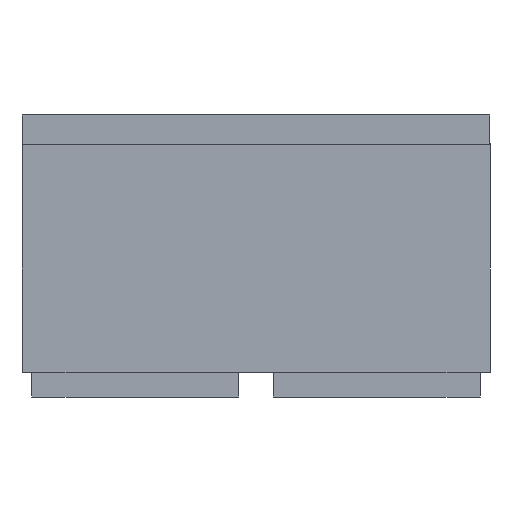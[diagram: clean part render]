
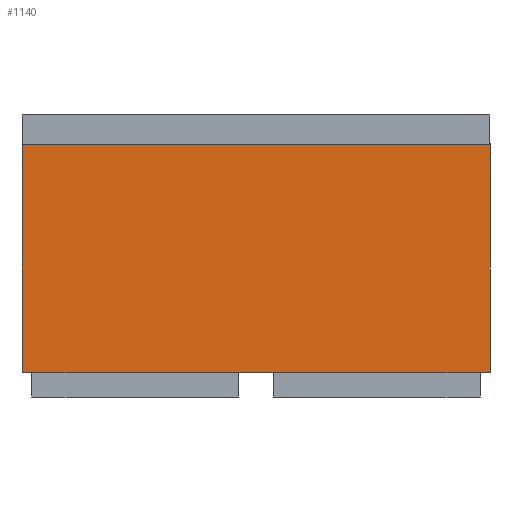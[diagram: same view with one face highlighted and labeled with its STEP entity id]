
A CAD part, left-side view. The second image highlights one B-rep face of the part: STEP entity #1140.
In plain terms, the highlighted planar face has unit normal (-1, 0, 0).
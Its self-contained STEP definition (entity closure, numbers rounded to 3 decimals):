
#759=CARTESIAN_POINT('',(-259.272,-116.657,10.0));
#760=VERTEX_POINT('',#759);
#767=CARTESIAN_POINT('',(-259.272,-112.657,10.0));
#768=VERTEX_POINT('',#767);
#769=CARTESIAN_POINT('',(-259.272,-116.657,10.0));
#770=DIRECTION('',(0.0,1.0,0.0));
#771=VECTOR('',#770,4.);
#772=LINE('',#769,#771);
#773=EDGE_CURVE('',#760,#768,#772,.T.);
#888=CARTESIAN_POINT('',(-259.272,-116.657,102.5));
#889=VERTEX_POINT('',#888);
#890=CARTESIAN_POINT('',(-259.272,73.343,102.5));
#891=VERTEX_POINT('',#890);
#892=CARTESIAN_POINT('',(-259.272,-116.657,102.5));
#893=DIRECTION('',(0.0,1.0,0.0));
#894=VECTOR('',#893,190.0);
#895=LINE('',#892,#894);
#896=EDGE_CURVE('',#889,#891,#895,.T.);
#1030=CARTESIAN_POINT('',(-259.272,69.343,10.0));
#1031=VERTEX_POINT('',#1030);
#1040=CARTESIAN_POINT('',(-259.272,73.343,10.0));
#1041=VERTEX_POINT('',#1040);
#1042=CARTESIAN_POINT('',(-259.272,69.343,10.0));
#1043=DIRECTION('',(0.0,1.0,0.0));
#1044=VECTOR('',#1043,4.0);
#1045=LINE('',#1042,#1044);
#1046=EDGE_CURVE('',#1031,#1041,#1045,.T.);
#1072=CARTESIAN_POINT('',(-259.272,-14.657,10.0));
#1073=VERTEX_POINT('',#1072);
#1088=CARTESIAN_POINT('',(-259.272,-28.657,10.0));
#1089=VERTEX_POINT('',#1088);
#1096=CARTESIAN_POINT('',(-259.272,-28.657,10.0));
#1097=DIRECTION('',(0.0,1.0,0.0));
#1098=VECTOR('',#1097,14.);
#1099=LINE('',#1096,#1098);
#1100=EDGE_CURVE('',#1089,#1073,#1099,.T.);
#1105=CARTESIAN_POINT('',(-259.272,-116.657,10.0));
#1106=DIRECTION('',(-1.0,0.0,0.0));
#1107=DIRECTION('',(0.0,0.0,1.0));
#1108=AXIS2_PLACEMENT_3D('',#1105,#1106,#1107);
#1109=PLANE('',#1108);
#1110=ORIENTED_EDGE('',*,*,#896,.T.);
#1111=CARTESIAN_POINT('',(-259.272,73.343,10.0));
#1112=DIRECTION('',(0.0,0.0,1.0));
#1113=VECTOR('',#1112,92.5);
#1114=LINE('',#1111,#1113);
#1115=EDGE_CURVE('',#1041,#891,#1114,.T.);
#1116=ORIENTED_EDGE('',*,*,#1115,.F.);
#1117=ORIENTED_EDGE('',*,*,#1046,.F.);
#1118=CARTESIAN_POINT('',(-259.272,-14.657,10.0));
#1119=DIRECTION('',(0.0,1.0,0.0));
#1120=VECTOR('',#1119,84.0);
#1121=LINE('',#1118,#1120);
#1122=EDGE_CURVE('',#1073,#1031,#1121,.T.);
#1123=ORIENTED_EDGE('',*,*,#1122,.F.);
#1124=ORIENTED_EDGE('',*,*,#1100,.F.);
#1125=CARTESIAN_POINT('',(-259.272,-112.657,10.0));
#1126=DIRECTION('',(0.0,1.0,0.0));
#1127=VECTOR('',#1126,84.);
#1128=LINE('',#1125,#1127);
#1129=EDGE_CURVE('',#768,#1089,#1128,.T.);
#1130=ORIENTED_EDGE('',*,*,#1129,.F.);
#1131=ORIENTED_EDGE('',*,*,#773,.F.);
#1132=CARTESIAN_POINT('',(-259.272,-116.657,10.0));
#1133=DIRECTION('',(0.0,0.0,1.0));
#1134=VECTOR('',#1133,92.5);
#1135=LINE('',#1132,#1134);
#1136=EDGE_CURVE('',#760,#889,#1135,.T.);
#1137=ORIENTED_EDGE('',*,*,#1136,.T.);
#1138=EDGE_LOOP('',(#1110,#1116,#1117,#1123,#1124,#1130,#1131,#1137));
#1139=FACE_OUTER_BOUND('',#1138,.T.);
#1140=ADVANCED_FACE('',(#1139),#1109,.T.);
